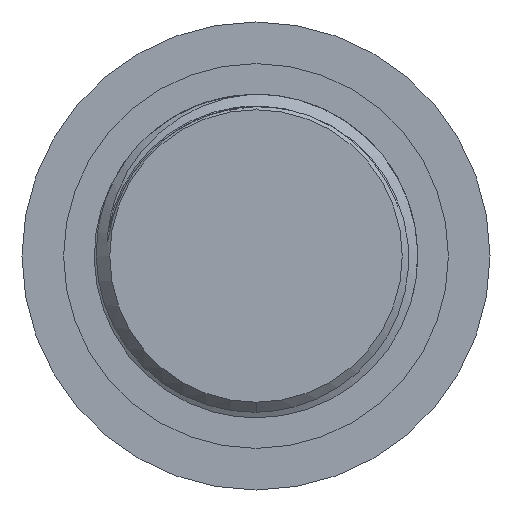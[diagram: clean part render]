
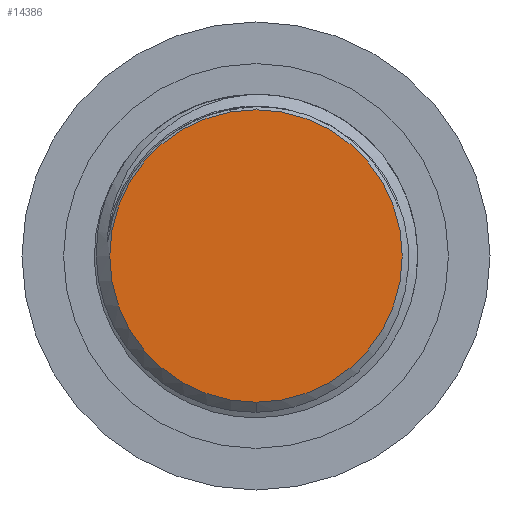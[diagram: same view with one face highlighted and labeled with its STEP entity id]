
A CAD part, left-side view. The second image highlights one B-rep face of the part: STEP entity #14386.
In plain terms, the highlighted planar face has unit normal (-1, 0, 0).
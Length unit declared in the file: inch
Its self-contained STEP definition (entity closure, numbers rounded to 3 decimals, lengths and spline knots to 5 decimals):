
#206 = PLANE ( 'NONE',  #18472 ) ;
#281 = DIRECTION ( 'NONE',  ( 0., 0., 1. ) ) ;
#1017 = AXIS2_PLACEMENT_3D ( 'NONE', #1975, #14804, #3837 ) ;
#1975 = CARTESIAN_POINT ( 'NONE',  ( -1.5885, 0., 0. ) ) ;
#2322 = EDGE_CURVE ( 'NONE', #17567, #21664, #10578, .T. ) ;
#3837 = DIRECTION ( 'NONE',  ( 0., 0., -1. ) ) ;
#5344 = EDGE_LOOP ( 'NONE', ( #19361, #7061 ) ) ;
#6028 = EDGE_CURVE ( 'NONE', #21664, #17567, #8678, .T. ) ;
#7061 = ORIENTED_EDGE ( 'NONE', *, *, #6028, .F. ) ;
#7596 = CARTESIAN_POINT ( 'NONE',  ( -1.5885, 0., 0. ) ) ;
#8678 = CIRCLE ( 'NONE', #16317, 0.325 ) ;
#9428 = DIRECTION ( 'NONE',  ( 0., 0., -1. ) ) ;
#9692 = CARTESIAN_POINT ( 'NONE',  ( -1.5885, 0., 0.325 ) ) ;
#10578 = CIRCLE ( 'NONE', #1017, 0.325 ) ;
#11237 = DIRECTION ( 'NONE',  ( -1., 0., 0. ) ) ;
#14386 = ADVANCED_FACE ( 'NONE', ( #15756 ), #206, .T. ) ;
#14804 = DIRECTION ( 'NONE',  ( 1., 0., 0. ) ) ;
#15022 = CARTESIAN_POINT ( 'NONE',  ( -1.5885, 0., -0.325 ) ) ;
#15756 = FACE_OUTER_BOUND ( 'NONE', #5344, .T. ) ;
#16317 = AXIS2_PLACEMENT_3D ( 'NONE', #7596, #20430, #9428 ) ;
#17567 = VERTEX_POINT ( 'NONE', #15022 ) ;
#18472 = AXIS2_PLACEMENT_3D ( 'NONE', #20422, #11237, #281 ) ;
#19361 = ORIENTED_EDGE ( 'NONE', *, *, #2322, .F. ) ;
#20422 = CARTESIAN_POINT ( 'NONE',  ( -1.5885, 0.325, 0. ) ) ;
#20430 = DIRECTION ( 'NONE',  ( 1., 0., 0. ) ) ;
#21664 = VERTEX_POINT ( 'NONE', #9692 ) ;
